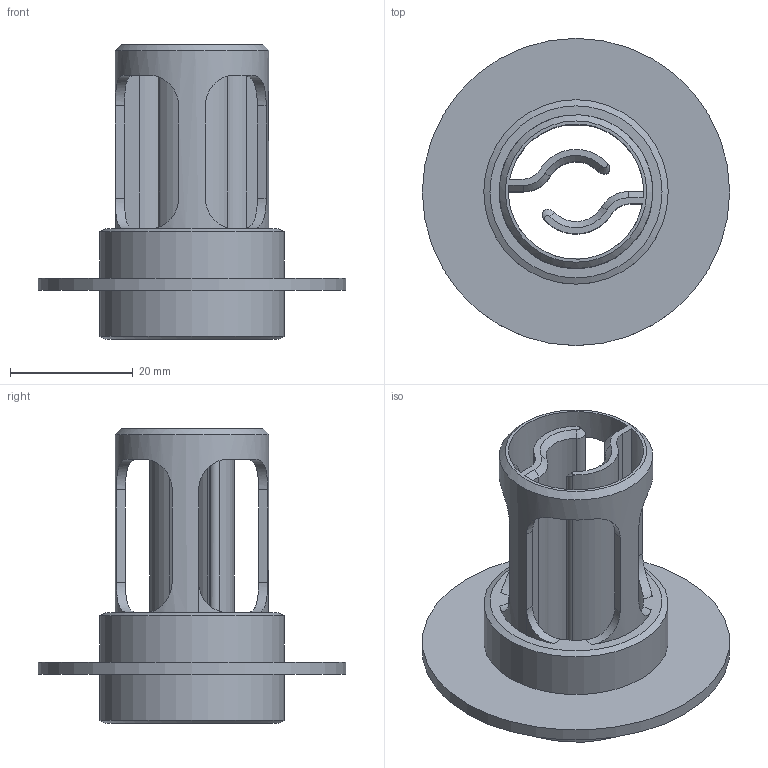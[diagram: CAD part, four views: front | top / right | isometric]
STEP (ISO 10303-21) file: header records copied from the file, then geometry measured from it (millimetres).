
FILE_DESCRIPTION(/* description */ ('STEP AP242 Edition 2','CAx-IF Rec.Pracs.---Representation and Presentation of Product Manufacturing Information (PMI)---4.0---2014-10-13','CAx-IF Rec.Pracs.---3D Tessellated Geometry---0.4---2014-09-14','2;1','CAx-IF Rec.Pracs.---User Defined Attributes---1.5---2016-08-15'),/* implementation_level */ '2;1');
FILE_NAME(/* name */ 'Draw Bot V4 - Updated Design - Pen Mount',/* time_stamp */ '2026-04-19T16:23:58Z',/* author */ (''),/* organization */ (''),/* preprocessor_version */ 'ST-DEVELOPER v20',/* originating_system */ 'ONSHAPE BY PTC INC, 1.213',/* authorisation */ ' ');
FILE_SCHEMA (('AP242_MANAGED_MODEL_BASED_3D_ENGINEERING_MIM_LF { 1 0 10303 442 3 1 4 }'));
Length unit declared in the file: millimetre
Products named in the file (1): Pen Mount
Bounding box: 50 x 50 x 48 mm (x, y, z)
Volume: 13147.3 mm3; surface area: 11880.3 mm2
Topology: 1 solids, 1 shells, 75 faces, 207 edges, 133 vertices
Faces by surface type: cylinder 35, plane 25, cone 15
Full cylindrical faces by diameter (mm): 25 x1, 30 x2, 50 x1
Entity records: 2490 total; most frequent: CARTESIAN_POINT 619, ORIENTED_EDGE 392, DIRECTION 372, EDGE_CURVE 196, AXIS2_PLACEMENT_3D 141, VERTEX_POINT 130, LINE 90, VECTOR 90
